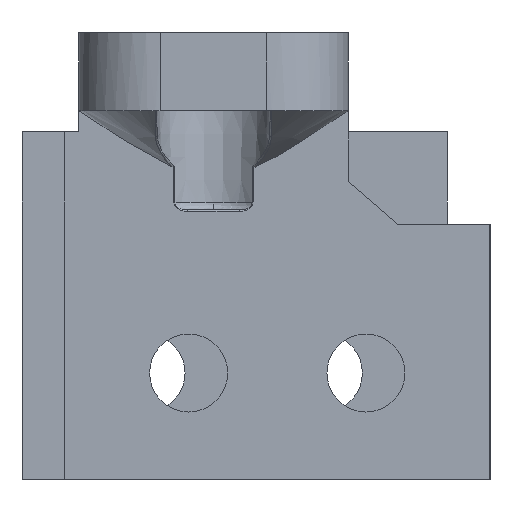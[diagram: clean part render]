
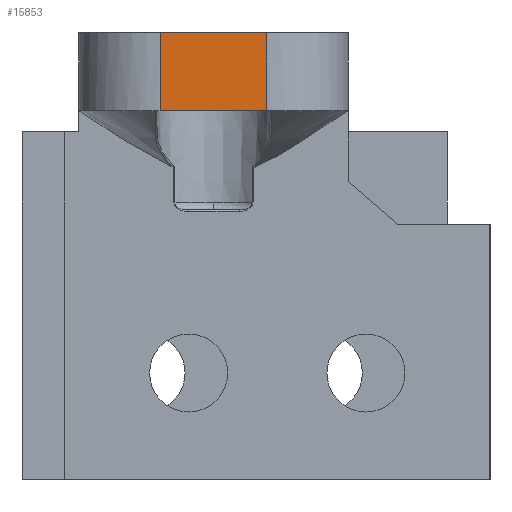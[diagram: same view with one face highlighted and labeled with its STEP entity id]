
A CAD part, left-side view. The second image highlights one B-rep face of the part: STEP entity #15853.
In plain terms, the highlighted planar face has unit normal (-1, 0, 0).
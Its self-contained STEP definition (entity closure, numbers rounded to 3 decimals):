
#132 = VERTEX_POINT ( 'NONE', #21095 ) ;
#1406 = CARTESIAN_POINT ( 'NONE',  ( -159., -99., -208.5 ) ) ;
#1992 = ORIENTED_EDGE ( 'NONE', *, *, #15264, .F. ) ;
#2987 = EDGE_CURVE ( 'NONE', #13543, #9529, #7052, .T. ) ;
#3493 = LINE ( 'NONE', #1406, #16180 ) ;
#3607 = DIRECTION ( 'NONE',  ( 0., 0., -1. ) ) ;
#5379 = VECTOR ( 'NONE', #14334, 1000. ) ;
#5776 = ORIENTED_EDGE ( 'NONE', *, *, #2987, .F. ) ;
#6434 = CARTESIAN_POINT ( 'NONE',  ( -159., -84., -208.5 ) ) ;
#7052 = LINE ( 'NONE', #11753, #9617 ) ;
#7277 = AXIS2_PLACEMENT_3D ( 'NONE', #21182, #9609, #19462 ) ;
#9058 = ORIENTED_EDGE ( 'NONE', *, *, #20279, .F. ) ;
#9529 = VERTEX_POINT ( 'NONE', #10129 ) ;
#9609 = DIRECTION ( 'NONE',  ( 1., 0., 0. ) ) ;
#9617 = VECTOR ( 'NONE', #3607, 1000. ) ;
#9678 = PLANE ( 'NONE',  #7277 ) ;
#9737 = LINE ( 'NONE', #17551, #5379 ) ;
#10129 = CARTESIAN_POINT ( 'NONE',  ( -159., -99., -208.5 ) ) ;
#11753 = CARTESIAN_POINT ( 'NONE',  ( -159., -99., -208.5 ) ) ;
#12865 = EDGE_LOOP ( 'NONE', ( #9058, #5776, #1992, #18176 ) ) ;
#13232 = CARTESIAN_POINT ( 'NONE',  ( -159., -99., -197.5 ) ) ;
#13543 = VERTEX_POINT ( 'NONE', #19160 ) ;
#14149 = LINE ( 'NONE', #13232, #16741 ) ;
#14334 = DIRECTION ( 'NONE',  ( 0., 0., 1. ) ) ;
#14877 = EDGE_CURVE ( 'NONE', #20218, #132, #9737, .T. ) ;
#15264 = EDGE_CURVE ( 'NONE', #132, #13543, #14149, .T. ) ;
#15853 = ADVANCED_FACE ( 'NONE', ( #20883 ), #9678, .F. ) ;
#16180 = VECTOR ( 'NONE', #21303, 1000. ) ;
#16741 = VECTOR ( 'NONE', #18370, 1000. ) ;
#17551 = CARTESIAN_POINT ( 'NONE',  ( -159., -84., -208.5 ) ) ;
#18176 = ORIENTED_EDGE ( 'NONE', *, *, #14877, .F. ) ;
#18370 = DIRECTION ( 'NONE',  ( 0., -1., 0. ) ) ;
#19160 = CARTESIAN_POINT ( 'NONE',  ( -159., -99., -197.5 ) ) ;
#19462 = DIRECTION ( 'NONE',  ( 0., 0., -1. ) ) ;
#20218 = VERTEX_POINT ( 'NONE', #6434 ) ;
#20279 = EDGE_CURVE ( 'NONE', #9529, #20218, #3493, .T. ) ;
#20883 = FACE_OUTER_BOUND ( 'NONE', #12865, .T. ) ;
#21095 = CARTESIAN_POINT ( 'NONE',  ( -159., -84., -197.5 ) ) ;
#21182 = CARTESIAN_POINT ( 'NONE',  ( -159., -99., -208.5 ) ) ;
#21303 = DIRECTION ( 'NONE',  ( 0., 1., 0. ) ) ;
